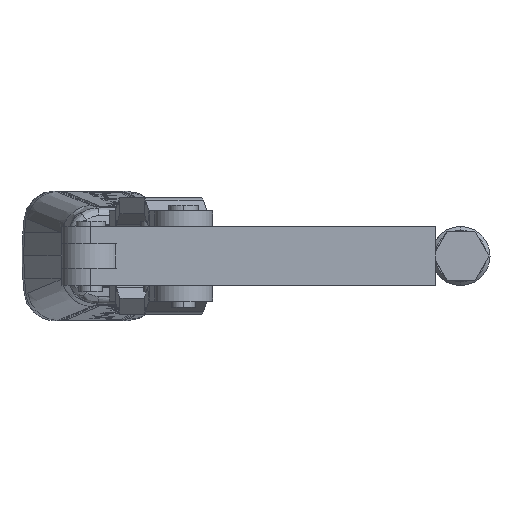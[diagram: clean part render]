
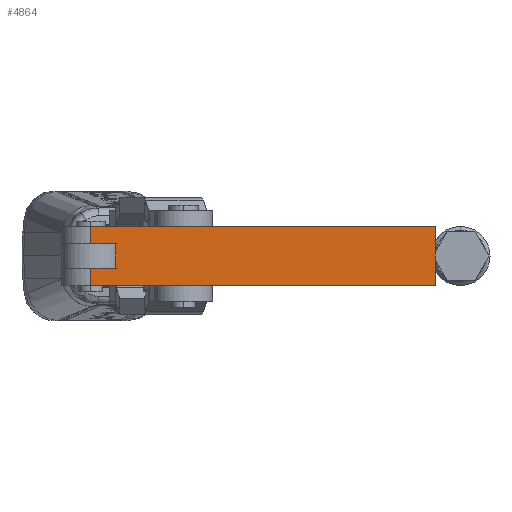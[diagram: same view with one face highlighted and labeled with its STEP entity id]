
A CAD part, front view. The second image highlights one B-rep face of the part: STEP entity #4864.
In plain terms, the highlighted planar face has unit normal (0, -1, 0).
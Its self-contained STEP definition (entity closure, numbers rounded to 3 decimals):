
#164 = FACE_OUTER_BOUND ( 'NONE', #25437, .T. ) ;
#207 = ORIENTED_EDGE ( 'NONE', *, *, #14897, .F. ) ;
#236 = CARTESIAN_POINT ( 'NONE',  ( -14.68, -7.938, -3.25 ) ) ;
#270 = VERTEX_POINT ( 'NONE', #20592 ) ;
#821 = EDGE_CURVE ( 'NONE', #270, #22344, #10127, .T. ) ;
#1345 = EDGE_CURVE ( 'NONE', #14376, #27319, #16364, .T. ) ;
#1490 = CARTESIAN_POINT ( 'NONE',  ( -7.938, -7.938, 7.938 ) ) ;
#2756 = CARTESIAN_POINT ( 'NONE',  ( -7.938, -7.938, 7.938 ) ) ;
#2817 = CARTESIAN_POINT ( 'NONE',  ( -101., -7.938, -7.938 ) ) ;
#2892 = LINE ( 'NONE', #2756, #25030 ) ;
#2913 = CARTESIAN_POINT ( 'NONE',  ( -7.938, -7.938, -3.25 ) ) ;
#2916 = CARTESIAN_POINT ( 'NONE',  ( -101., -7.938, -7.938 ) ) ;
#3543 = ORIENTED_EDGE ( 'NONE', *, *, #12414, .T. ) ;
#3743 = ORIENTED_EDGE ( 'NONE', *, *, #27561, .F. ) ;
#4297 = CARTESIAN_POINT ( 'NONE',  ( -101., -7.938, 7.938 ) ) ;
#4607 = VECTOR ( 'NONE', #10818, 1000. ) ;
#4864 = ADVANCED_FACE ( 'NONE', ( #164 ), #8837, .F. ) ;
#4976 = DIRECTION ( 'NONE',  ( 0., 0., -1. ) ) ;
#5129 = VERTEX_POINT ( 'NONE', #20388 ) ;
#5364 = ORIENTED_EDGE ( 'NONE', *, *, #15416, .T. ) ;
#5704 = CARTESIAN_POINT ( 'NONE',  ( -7.938, -7.938, 7.938 ) ) ;
#6383 = ORIENTED_EDGE ( 'NONE', *, *, #23841, .T. ) ;
#8119 = EDGE_CURVE ( 'NONE', #27319, #5129, #2892, .T. ) ;
#8138 = DIRECTION ( 'NONE',  ( 0., 0., -1. ) ) ;
#8593 = VECTOR ( 'NONE', #14720, 1000. ) ;
#8837 = PLANE ( 'NONE',  #18727 ) ;
#9598 = ORIENTED_EDGE ( 'NONE', *, *, #821, .T. ) ;
#9665 = LINE ( 'NONE', #10332, #20770 ) ;
#10127 = LINE ( 'NONE', #19685, #27128 ) ;
#10332 = CARTESIAN_POINT ( 'NONE',  ( -101., -7.938, 7.938 ) ) ;
#10751 = LINE ( 'NONE', #2916, #11442 ) ;
#10818 = DIRECTION ( 'NONE',  ( 1., 0., 0. ) ) ;
#11442 = VECTOR ( 'NONE', #27113, 1000. ) ;
#12414 = EDGE_CURVE ( 'NONE', #26969, #27293, #9665, .T. ) ;
#13261 = DIRECTION ( 'NONE',  ( 0., 0., 1. ) ) ;
#14086 = LINE ( 'NONE', #236, #25180 ) ;
#14376 = VERTEX_POINT ( 'NONE', #16315 ) ;
#14398 = CARTESIAN_POINT ( 'NONE',  ( -7.938, -7.938, 3.25 ) ) ;
#14720 = DIRECTION ( 'NONE',  ( 0., 0., -1. ) ) ;
#14857 = CARTESIAN_POINT ( 'NONE',  ( -101., -7.938, 7.938 ) ) ;
#14897 = EDGE_CURVE ( 'NONE', #28696, #22344, #20359, .T. ) ;
#15416 = EDGE_CURVE ( 'NONE', #14376, #270, #14086, .T. ) ;
#16315 = CARTESIAN_POINT ( 'NONE',  ( -14.68, -7.938, -3.25 ) ) ;
#16364 = LINE ( 'NONE', #24119, #4607 ) ;
#17099 = DIRECTION ( 'NONE',  ( 1., 0., 0. ) ) ;
#17434 = DIRECTION ( 'NONE',  ( 1., 0., 0. ) ) ;
#18291 = LINE ( 'NONE', #14857, #23528 ) ;
#18727 = AXIS2_PLACEMENT_3D ( 'NONE', #4297, #26558, #13261 ) ;
#19685 = CARTESIAN_POINT ( 'NONE',  ( -14.68, -7.938, 3.25 ) ) ;
#20359 = LINE ( 'NONE', #1490, #8593 ) ;
#20388 = CARTESIAN_POINT ( 'NONE',  ( -7.938, -7.938, -7.938 ) ) ;
#20592 = CARTESIAN_POINT ( 'NONE',  ( -14.68, -7.938, 3.25 ) ) ;
#20747 = CARTESIAN_POINT ( 'NONE',  ( -101., -7.938, 7.938 ) ) ;
#20770 = VECTOR ( 'NONE', #8138, 1000. ) ;
#22344 = VERTEX_POINT ( 'NONE', #14398 ) ;
#23528 = VECTOR ( 'NONE', #17099, 1000. ) ;
#23841 = EDGE_CURVE ( 'NONE', #27293, #5129, #10751, .T. ) ;
#24119 = CARTESIAN_POINT ( 'NONE',  ( -14.68, -7.938, -3.25 ) ) ;
#24530 = DIRECTION ( 'NONE',  ( 0., 0., 1. ) ) ;
#25030 = VECTOR ( 'NONE', #4976, 1000. ) ;
#25180 = VECTOR ( 'NONE', #24530, 1000. ) ;
#25437 = EDGE_LOOP ( 'NONE', ( #26532, #5364, #9598, #207, #3743, #3543, #6383, #27964 ) ) ;
#26532 = ORIENTED_EDGE ( 'NONE', *, *, #1345, .F. ) ;
#26558 = DIRECTION ( 'NONE',  ( 0., 1., 0. ) ) ;
#26969 = VERTEX_POINT ( 'NONE', #20747 ) ;
#27113 = DIRECTION ( 'NONE',  ( 1., 0., 0. ) ) ;
#27128 = VECTOR ( 'NONE', #17434, 1000. ) ;
#27293 = VERTEX_POINT ( 'NONE', #2817 ) ;
#27319 = VERTEX_POINT ( 'NONE', #2913 ) ;
#27561 = EDGE_CURVE ( 'NONE', #26969, #28696, #18291, .T. ) ;
#27964 = ORIENTED_EDGE ( 'NONE', *, *, #8119, .F. ) ;
#28696 = VERTEX_POINT ( 'NONE', #5704 ) ;
